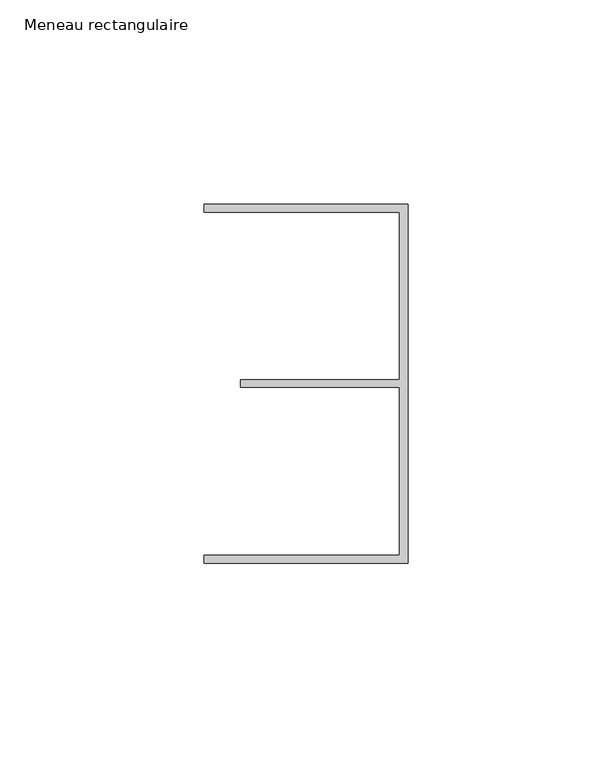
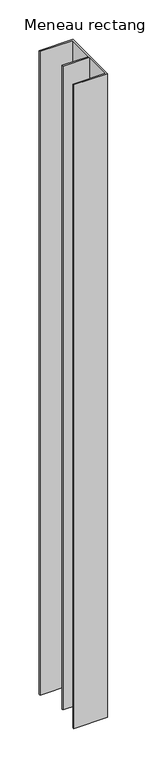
"""IFC4 building model written with IfcOpenShell, lengths in millimetres: member geometry, Meneau rectangulaire : LISSERIE_SOL_COIFFANTE 94-KLS00-P80-SD41ALU."""

import ifcopenshell
import ifcopenshell.guid

model = None  # the IFC model being written
_history = None  # IfcOwnerHistory: only IFC2X3 demands one
_inside = {}  # id of a spatial element -> (the spatial element, [elements in it])
_under = {}  # id of a project, library or spatial element -> (it, [spatial elements below it])
_declared = {}  # id of a project -> (the project, [libraries it declares])
_typed = {}  # id of a type object -> (the type object, [elements of that type])
_made_of = {}  # id of a material, layer set ... -> (it, [elements and type objects made of it])


def new_model(schema):
    """Start an empty IFC model of exactly this schema.

    Asked for "IFC4X3", IfcOpenShell would pick the latest addendum, in which some entities
    have other attributes; the version numbers below select the first issue.
    IFC2X3 requires an IfcOwnerHistory on every rooted entity: one is made here for all.
    """
    global model, _history
    if schema == "IFC4X3":
        model = ifcopenshell.file(schema_version=(4, 3, 0, 0))
    else:
        model = ifcopenshell.file(schema=schema)
    _inside.clear()
    _under.clear()
    _declared.clear()
    _typed.clear()
    _made_of.clear()
    _history = None
    if model.schema == "IFC2X3":
        org = make("IfcOrganization", Name="unknown")
        user = make(
            "IfcPersonAndOrganization",
            ThePerson=make("IfcPerson", FamilyName="unknown"),
            TheOrganization=org,
        )
        app = make(
            "IfcApplication",
            ApplicationDeveloper=org,
            Version="unknown",
            ApplicationFullName="unknown",
            ApplicationIdentifier="unknown",
        )
        _history = make(
            "IfcOwnerHistory",
            OwningUser=user,
            OwningApplication=app,
            ChangeAction="ADDED",
            CreationDate=0,
        )
    return model


def make(cls, **values):
    """One entity of the class cls with the attributes given. An attribute that is None is left unset."""
    return model.create_entity(
        cls, **{name: value for name, value in values.items() if value is not None}
    )


def rooted(cls, **values):
    """An entity with a GlobalId (a new one), such as an element, a storey or a relation."""
    return make(cls, GlobalId=ifcopenshell.guid.new(), OwnerHistory=_history, **values)


def si_unit(unit_type, name, prefix=None):
    """IfcSIUnit, for example si_unit("LENGTHUNIT", "METRE", prefix="MILLI")."""
    return make("IfcSIUnit", UnitType=unit_type, Prefix=prefix, Name=name)


def assignment(units):
    """IfcUnitAssignment: the units of a project."""
    return None if units is None else make("IfcUnitAssignment", Units=units)


def point(xyz):
    """IfcCartesianPoint."""
    return None if xyz is None else make("IfcCartesianPoint", Coordinates=xyz)


def direction(xyz):
    """IfcDirection."""
    return None if xyz is None else make("IfcDirection", DirectionRatios=xyz)


def frame(location, z_axis=None, x_axis=None):
    """IfcAxis2Placement3D, a coordinate frame: its origin and axes. An axis left out is left unset."""
    return make(
        "IfcAxis2Placement3D",
        Location=point(location),
        Axis=direction(z_axis),
        RefDirection=direction(x_axis),
    )


def origin():
    """The frame at (0, 0, 0) with its axes left unset."""
    return frame((0.0, 0.0, 0.0))


def place(relative_to, where):
    """IfcLocalPlacement: puts the frame where relative to a parent placement (None: the world)."""
    return make(
        "IfcLocalPlacement", PlacementRelTo=relative_to, RelativePlacement=where
    )


def context(
    kind, dimensions, precision=None, world=None, true_north=None, identifier=None
):
    """IfcGeometricRepresentationContext, for example the 3D "Model" context."""
    return make(
        "IfcGeometricRepresentationContext",
        ContextIdentifier=identifier,
        ContextType=kind,
        CoordinateSpaceDimension=dimensions,
        Precision=precision,
        WorldCoordinateSystem=world,
        TrueNorth=true_north,
    )


def project(units=None, contexts=None):
    """IfcProject with its units and contexts."""
    return rooted(
        "IfcProject",
        Name="project",
        RepresentationContexts=contexts,
        UnitsInContext=assignment(units),
    )


def spatial(cls, under=None, at=None, **own):
    """A site, building, storey or space (cls), placed at a placement, below another one or the project."""
    s = rooted(cls, ObjectPlacement=at, **own)
    if under is not None:
        _under.setdefault(under.id(), (under, []))[1].append(s)
    return s


def polyline(points):
    """IfcPolyline through the points."""
    return make("IfcPolyline", Points=[point(p) for p in points])


def outline(outer, holes=None, kind="AREA"):
    """IfcArbitraryClosedProfileDef: a profile drawn as a closed curve; with holes, ...WithVoids."""
    if holes is None:
        return make("IfcArbitraryClosedProfileDef", ProfileType=kind, OuterCurve=outer)
    return make(
        "IfcArbitraryProfileDefWithVoids",
        ProfileType=kind,
        OuterCurve=outer,
        InnerCurves=holes,
    )


def extrude(swept, where, along, depth):
    """IfcExtrudedAreaSolid: the profile swept, set in the frame where, extruded along a direction by depth."""
    return make(
        "IfcExtrudedAreaSolid",
        SweptArea=swept,
        Position=where,
        ExtrudedDirection=direction(along),
        Depth=depth,
    )


def shape(context_of_items, identifier, shape_type, items):
    """IfcShapeRepresentation: the items that make up one representation, for example the "Body"."""
    return make(
        "IfcShapeRepresentation",
        ContextOfItems=context_of_items,
        RepresentationIdentifier=identifier,
        RepresentationType=shape_type,
        Items=items,
    )


def source(mapping_origin, context_of_items, identifier, shape_type, items):
    """IfcRepresentationMap: a shape defined once, which mapped items show again and again."""
    return make(
        "IfcRepresentationMap",
        MappingOrigin=mapping_origin,
        MappedRepresentation=shape(context_of_items, identifier, shape_type, items),
    )


def transform(
    local_origin,
    x_axis=None,
    y_axis=None,
    z_axis=None,
    scale=None,
    scale2=None,
    scale3=None,
    uniform=True,
):
    """IfcCartesianTransformationOperator3D, or its non-uniform kind. x_axis, y_axis, z_axis: its Axis1, 2, 3."""
    if uniform:
        return make(
            "IfcCartesianTransformationOperator3D",
            Axis1=direction(x_axis),
            Axis2=direction(y_axis),
            LocalOrigin=point(local_origin),
            Scale=scale,
            Axis3=direction(z_axis),
        )
    return make(
        "IfcCartesianTransformationOperator3DnonUniform",
        Axis1=direction(x_axis),
        Axis2=direction(y_axis),
        LocalOrigin=point(local_origin),
        Scale=scale,
        Axis3=direction(z_axis),
        Scale2=scale2,
        Scale3=scale3,
    )


def mapped(mapping_source, mapping_target):
    """IfcMappedItem: shows the shape of a source again, moved by a transform."""
    return make(
        "IfcMappedItem", MappingSource=mapping_source, MappingTarget=mapping_target
    )


def made_of(thing, what):
    """Note that an element or type object is made of a material, layer set ...; save() writes the relation."""
    if what is not None:
        _made_of.setdefault(what.id(), (what, []))[1].append(thing)
    return thing


def element(
    cls,
    number,
    at=None,
    inside=None,
    cuts=None,
    type_object=None,
    material=None,
    context=None,
    identifier="Body",
    shape_type=None,
    held_by="IfcProductDefinitionShape",
    body=None,
    shapes=None,
    **own,
):
    """One element of the class cls, such as IfcWall. Its Tag is "e" and its number.

    at: its placement. inside: the storey or other place that contains it. cuts: it is an
    opening in that element (IfcRelVoidsElement). A single representation is given by context,
    identifier, shape_type and body (its items); several are given by shapes. held_by: the class
    of the entity that holds the representations. save() writes the other relations.
    """
    e = rooted(cls, Tag="e%d" % number, ObjectPlacement=at, **own)
    if body is not None:
        shapes = [shape(context, identifier, shape_type, body)]
    if shapes is not None:
        e.Representation = make(held_by, Representations=shapes)
    if inside is not None:
        _inside.setdefault(inside.id(), (inside, []))[1].append(e)
    if cuts is not None:
        rooted(
            "IfcRelVoidsElement", RelatingBuildingElement=cuts, RelatedOpeningElement=e
        )
    if type_object is not None:
        _typed.setdefault(type_object.id(), (type_object, []))[1].append(e)
    return made_of(e, material)


def aggregate(whole, parts):
    """IfcRelAggregates: a whole, such as a stair, and the parts it consists of."""
    return rooted("IfcRelAggregates", RelatingObject=whole, RelatedObjects=parts)


def save(model, path):
    """Write the relations noted so far, then the file.

    IfcRelAggregates (storeys below a building ...), IfcRelContainedInSpatialStructure (elements
    in a storey), IfcRelDefinesByType, IfcRelAssociatesMaterial and IfcRelDeclares: one each for
    every whole, place, type object, material and project.
    """
    for whole, parts in _under.values():
        aggregate(whole, parts)
    for where, things in _inside.values():
        rooted(
            "IfcRelContainedInSpatialStructure",
            RelatedElements=things,
            RelatingStructure=where,
        )
    for kind, things in _typed.values():
        rooted("IfcRelDefinesByType", RelatedObjects=things, RelatingType=kind)
    for what, things in _made_of.values():
        rooted("IfcRelAssociatesMaterial", RelatedObjects=things, RelatingMaterial=what)
    for by, libraries in _declared.values():
        rooted("IfcRelDeclares", RelatingContext=by, RelatedDefinitions=libraries)
    model.write(path)


def meneau_rectangulaire_48ac8d12(model_context):
    return source(origin(), model_context, "Body", "SweptSolid", [
        extrude(outline(polyline([(0.0, -44.0), (-50.0, -44.0), (-50.0, -42.0), (-2.0, -42.0), (-2.0, -0.9316478), (-41.0, -0.9316478), (-41.0, 0.9316478), (-2.0, 0.9316478), (-2.0, 42.0), (-50.0, 42.0), (-50.0, 44.0), (0.0, 44.0), (0.0, -44.0)])), frame((0.0, 0.0, -1000.0), z_axis=(0.0, 0.0, 1.0), x_axis=(1.0, 0.0, 0.0)), (0.0, 0.0, 1.0), 1000.0),
    ])


if __name__ == "__main__":
    model = new_model("IFC4")
    model_context = context("Model", 3, world=origin())
    ifc_project = project(units=[si_unit("LENGTHUNIT", "METRE", prefix="MILLI")], contexts=[model_context])
    site = spatial("IfcSite", under=ifc_project)
    building = spatial("IfcBuilding", under=site)
    placement = place(None, origin())
    meneau_rectangulaire_shape = meneau_rectangulaire_48ac8d12(model_context)
    element("IfcMember", 1, ObjectType="Meneau rectangulaire : LISSERIE_SOL_COIFFANTE 94-KLS00-P80-SD41ALU", at=placement, inside=building, context=model_context, shape_type="MappedRepresentation", body=[
        mapped(meneau_rectangulaire_shape, transform((0.0, 0.0, 0.0), x_axis=(1.0, 0.0, 0.0), y_axis=(0.0, 1.0, 0.0), z_axis=(0.0, 0.0, 1.0))),
    ])
    save(model, "model.ifc")
